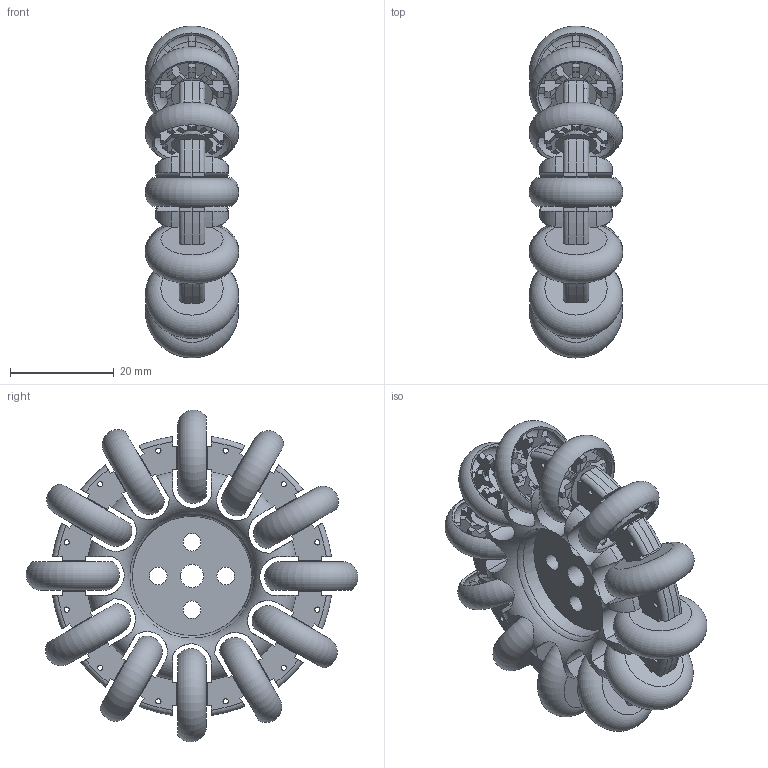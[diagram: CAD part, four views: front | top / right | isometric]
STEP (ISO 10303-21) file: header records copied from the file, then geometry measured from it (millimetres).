
FILE_DESCRIPTION(/* description */ (''),/* implementation_level */ '2;1');
FILE_NAME(/* name */ 'C:/Users/priba/Downloads/OmniWheelSingleL.step',/* time_stamp */ '2020-09-18T22:42:57+02:00',/* author */ (''),/* organization */ (''),/* preprocessor_version */ 'ST-DEVELOPER v18.1',/* originating_system */ 'Autodesk Translation Framework v9.3.0.1241',/* authorisation */ '');
FILE_SCHEMA (('AUTOMOTIVE_DESIGN { 1 0 10303 214 3 1 1 }'));
Length unit declared in the file: millimetre
Products named in the file (2): OmniWheelSingleL; RollerL
Assembly tree (12 placements, depth 2):
  OmniWheelSingleL
    RollerL  x12
Bounding box: 18 x 64 x 64 mm (x, y, z)
Volume: 12286.8 mm3; surface area: 26651.2 mm2
Topology: 14 solids, 14 shells, 1897 faces, 5934 edges, 3884 vertices
Faces by surface type: plane 1671, cylinder 126, torus 74, cone 24, bspline 2
Full cylindrical faces by diameter (mm): 1 x12, 1.8 x12, 2 x12, 3.4 x4, 4 x12, 4.5 x1, 23 x1
Entity records: 21619 total; most frequent: CARTESIAN_POINT 6104, ORIENTED_EDGE 3420, DIRECTION 2970, EDGE_CURVE 1710, LINE 1194, VECTOR 1194, VERTEX_POINT 1134, AXIS2_PLACEMENT_3D 888
